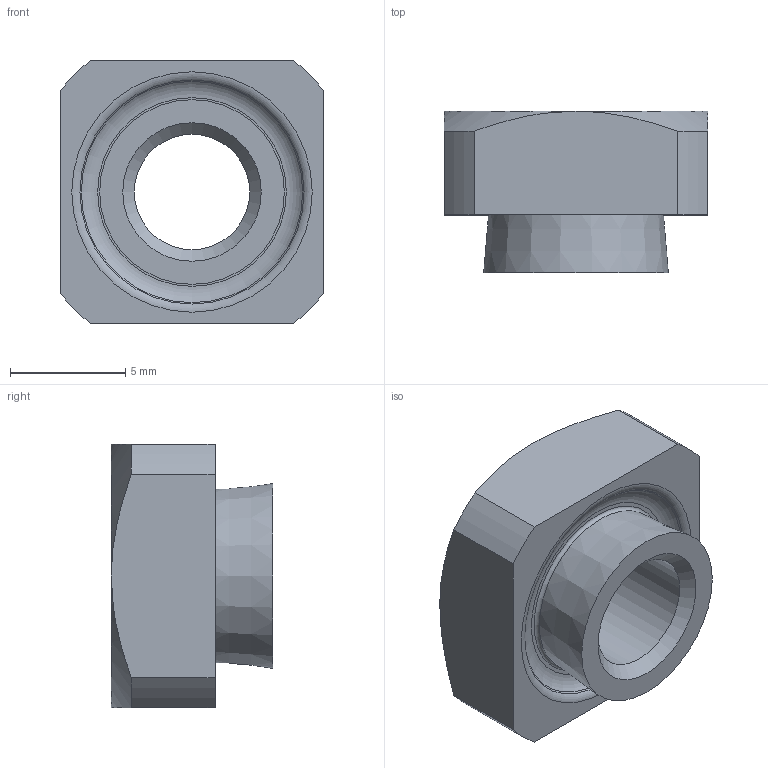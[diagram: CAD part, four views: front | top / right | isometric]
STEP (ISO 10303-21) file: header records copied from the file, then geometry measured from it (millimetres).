
FILE_DESCRIPTION(/* description */ (''),/* implementation_level */ '2;1');
FILE_NAME(/* name */ 'D:\Sukhmani\Fastit\HN Nut\HN 5-3.0.stp',/* time_stamp */ '2024-03-14T12:23:58+06:00',/* author */ ('edc.sukhmani'),/* organization */ (''),/* preprocessor_version */ 'ST-DEVELOPER v18.1',/* originating_system */ 'Autodesk Inventor 2022',/* authorisation */ '');
FILE_SCHEMA (('AUTOMOTIVE_DESIGN { 1 0 10303 214 3 1 1 }'));
Length unit declared in the file: millimetre
Products named in the file (1): HN 5-3.0
Bounding box: 11.4 x 7 x 11.4 mm (x, y, z)
Volume: 525 mm3; surface area: 577 mm2
Topology: 1 solids, 1 shells, 25 faces, 58 edges, 37 vertices
Faces by surface type: cone 8, plane 8, cylinder 6, torus 3
Full cylindrical faces by diameter (mm): 5 x1, 6 x1
Entity records: 763 total; most frequent: CARTESIAN_POINT 137, DIRECTION 134, ORIENTED_EDGE 116, EDGE_CURVE 58, AXIS2_PLACEMENT_3D 58, VERTEX_POINT 37, CIRCLE 32, EDGE_LOOP 29
